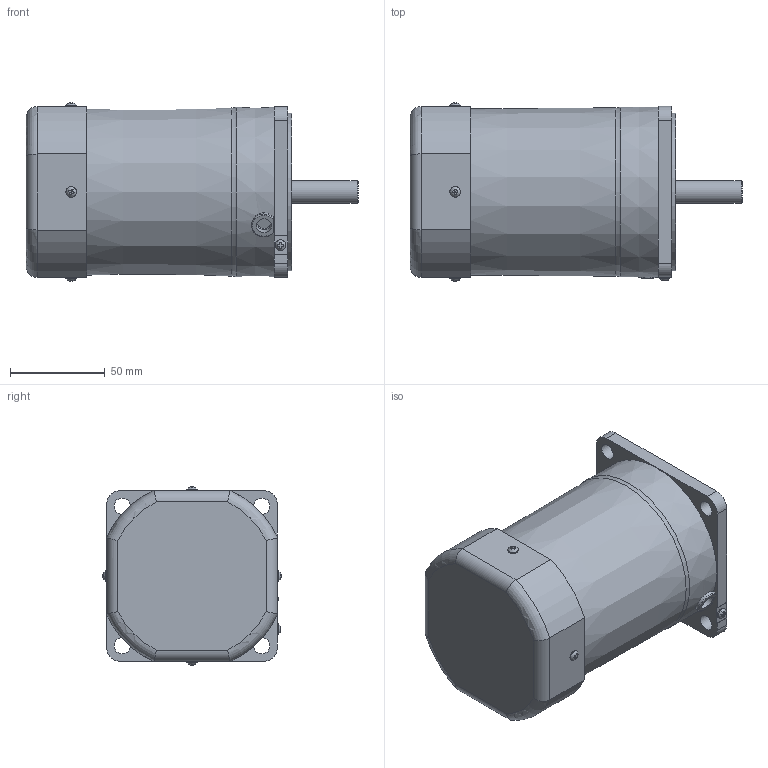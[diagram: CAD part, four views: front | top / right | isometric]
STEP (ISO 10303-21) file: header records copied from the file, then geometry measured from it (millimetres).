
FILE_DESCRIPTION(/* description */ (''),/* implementation_level */ '2;1');
FILE_NAME(/* name */ 'E:\도면작업\2016\0704) 미주향 SG 도면\3D MOTOR\SG9I90S_.stp',/* time_stamp */ '2016-07-22T13:53:55+09:00',/* author */ ('jy-jung'),/* organization */ (''),/* preprocessor_version */ 'ST-DEVELOPER v15.6',/* originating_system */ 'Autodesk Inventor 2015',/* authorisation */ '');
FILE_SCHEMA (('AUTOMOTIVE_DESIGN { 1 0 10303 214 3 1 1 }'));
Length unit declared in the file: millimetre
Products named in the file (1): 부품2
Bounding box: 174.8 x 93.89 x 93.89 mm (x, y, z)
Volume: 884981.5 mm3; surface area: 62049.7 mm2
Topology: 1 solids, 6 shells, 192 faces, 491 edges, 324 vertices
Faces by surface type: plane 120, cylinder 46, torus 14, cone 7, bspline 5
Full cylindrical faces by diameter (mm): 3 x4, 3.5 x4, 5.6 x5, 8 x1, 8.5 x4, 10 x1, 12 x1, 40 x1, 83 x1
Entity records: 6254 total; most frequent: CARTESIAN_POINT 1605, ORIENTED_EDGE 886, DIRECTION 858, EDGE_CURVE 443, VERTEX_POINT 315, AXIS2_PLACEMENT_3D 310, EDGE_LOOP 262, LINE 238
